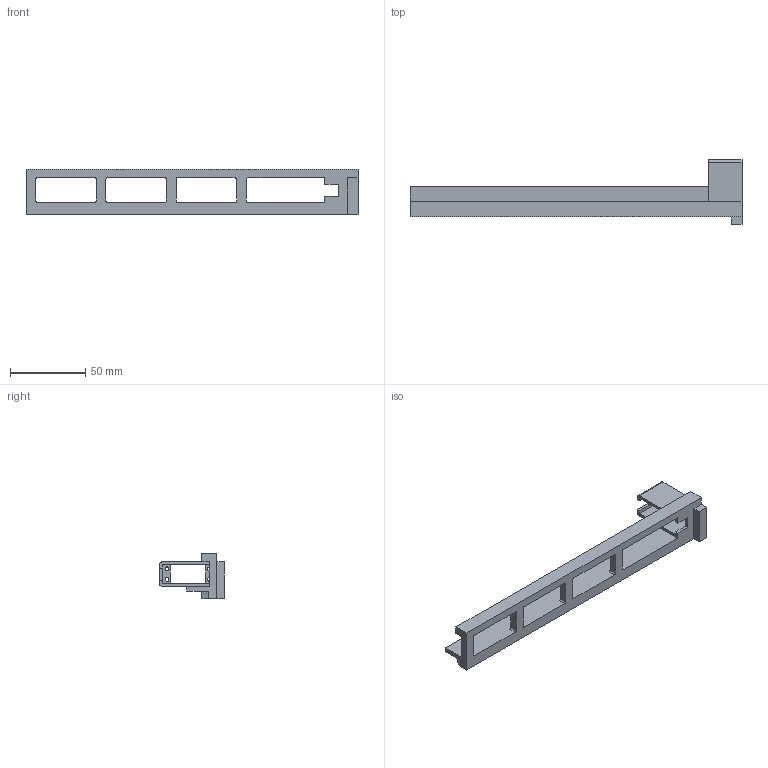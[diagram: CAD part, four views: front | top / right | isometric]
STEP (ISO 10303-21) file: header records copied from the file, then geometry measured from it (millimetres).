
FILE_DESCRIPTION (( 'STEP AP203' ), '1' );
FILE_NAME ('喘沭嗆儂test3.STEP', '2024-08-14T09:46:52', ( '' ), ( '' ), 'SwSTEP 2.0', 'SolidWorks 2024', '' );
FILE_SCHEMA (( 'CONFIG_CONTROL_DESIGN' ));
Length unit declared in the file: millimetre
Products named in the file (1): 齿条舵机test3
Bounding box: 220 x 43 x 30 mm (x, y, z)
Volume: 41326.3 mm3; surface area: 25591.6 mm2
Topology: 1 solids, 1 shells, 207 faces, 628 edges, 418 vertices
Faces by surface type: plane 183, cylinder 24
Entity records: 7047 total; most frequent: ORIENTED_EDGE 1256, CARTESIAN_POINT 1254, DIRECTION 1092, EDGE_CURVE 628, VECTOR 580, LINE 580, VERTEX_POINT 418, AXIS2_PLACEMENT_3D 256
